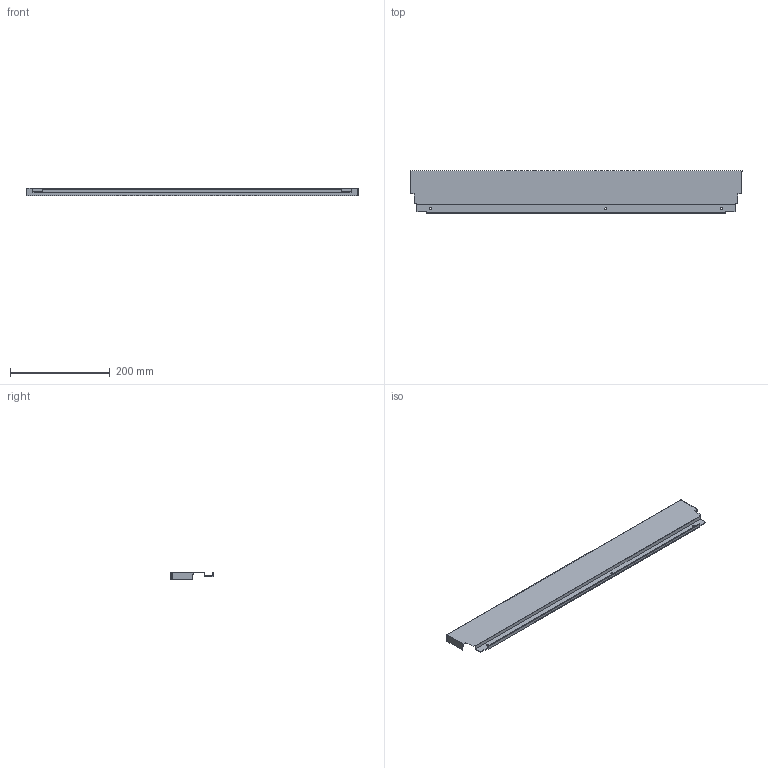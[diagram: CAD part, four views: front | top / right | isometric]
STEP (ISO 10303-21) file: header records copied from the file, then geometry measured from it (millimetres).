
FILE_DESCRIPTION (( 'STEP AP214' ), '1' );
FILE_NAME ('_DWD_XP Stahlrückwand_H86_KAB750_S17.step', '2010-07-08T12:10:11', ( 'grass' ), ( '' ), 'SwSTEP 2.0', 'SolidWorks 2010', '' );
FILE_SCHEMA (( 'AUTOMOTIVE_DESIGN' ));
Length unit declared in the file: millimetre
Products named in the file (1): _DWD_XP Stahlrückwand_H86_KAB750_S17
Bounding box: 667 x 85.79 x 16 mm (x, y, z)
Volume: 71289.5 mm3; surface area: 155018.3 mm2
Topology: 1 solids, 1 shells, 50 faces, 144 edges, 96 vertices
Faces by surface type: plane 44, cylinder 6
Entity records: 1666 total; most frequent: CARTESIAN_POINT 291, ORIENTED_EDGE 288, DIRECTION 258, EDGE_CURVE 144, LINE 132, VECTOR 132, VERTEX_POINT 96, AXIS2_PLACEMENT_3D 63
